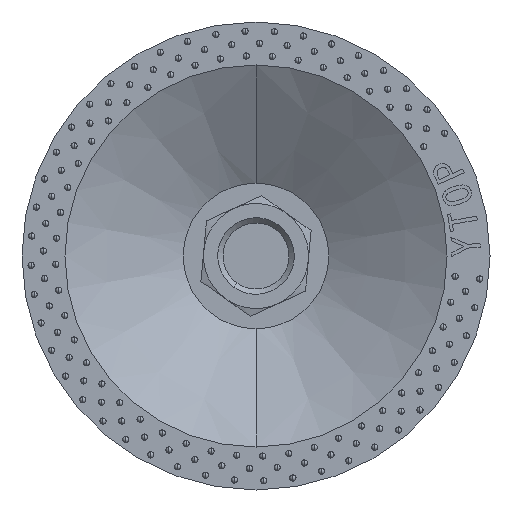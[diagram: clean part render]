
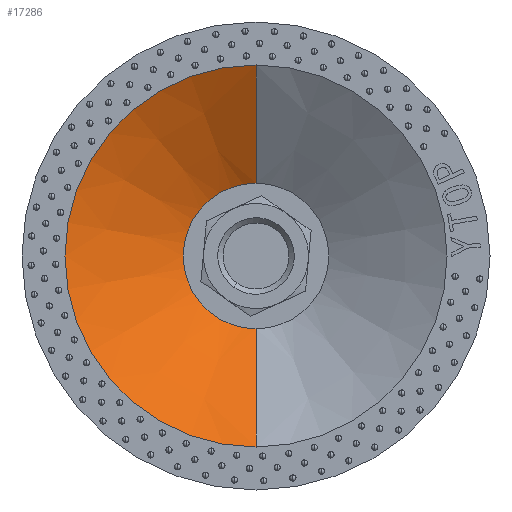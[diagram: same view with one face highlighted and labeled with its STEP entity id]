
A CAD part, front view. The second image highlights one B-rep face of the part: STEP entity #17286.
In plain terms, the highlighted conical face has half-angle 58.836 degrees and reference radius 40 mm.
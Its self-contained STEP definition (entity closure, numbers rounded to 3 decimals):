
#744 = LINE ( 'NONE', #23190, #23334 ) ;
#1186 = CARTESIAN_POINT ( 'NONE',  ( 0., 4.932, 40. ) ) ;
#1536 = EDGE_CURVE ( 'NONE', #9830, #20756, #14470, .T. ) ;
#1541 = VECTOR ( 'NONE', #24083, 1000. ) ;
#1772 = CARTESIAN_POINT ( 'NONE',  ( 0., 19.9, 15.25 ) ) ;
#2586 = ORIENTED_EDGE ( 'NONE', *, *, #7954, .F. ) ;
#3292 = EDGE_CURVE ( 'NONE', #14561, #12179, #744, .T. ) ;
#3742 = CARTESIAN_POINT ( 'NONE',  ( 0., 4.932, 40. ) ) ;
#4630 = CARTESIAN_POINT ( 'NONE',  ( 0., 4.932, 0. ) ) ;
#6711 = CARTESIAN_POINT ( 'NONE',  ( 0., 4.932, -40. ) ) ;
#7410 = ORIENTED_EDGE ( 'NONE', *, *, #11484, .T. ) ;
#7951 = CONICAL_SURFACE ( 'NONE', #23298, 40., 1.027 ) ;
#7954 = EDGE_CURVE ( 'NONE', #12179, #20756, #8405, .T. ) ;
#8405 = CIRCLE ( 'NONE', #22111, 40. ) ;
#8909 = DIRECTION ( 'NONE',  ( 0., 1., 0. ) ) ;
#8991 = DIRECTION ( 'NONE',  ( 0., 0., 1. ) ) ;
#9830 = VERTEX_POINT ( 'NONE', #1772 ) ;
#9948 = DIRECTION ( 'NONE',  ( 0., 1., 0. ) ) ;
#11063 = AXIS2_PLACEMENT_3D ( 'NONE', #19528, #9948, #19286 ) ;
#11484 = EDGE_CURVE ( 'NONE', #14561, #9830, #11612, .T. ) ;
#11578 = FACE_OUTER_BOUND ( 'NONE', #13687, .T. ) ;
#11612 = CIRCLE ( 'NONE', #11063, 15.25 ) ;
#12179 = VERTEX_POINT ( 'NONE', #6711 ) ;
#13687 = EDGE_LOOP ( 'NONE', ( #7410, #20177, #2586, #17058 ) ) ;
#14395 = DIRECTION ( 'NONE',  ( 0., -1., 0. ) ) ;
#14470 = LINE ( 'NONE', #1186, #1541 ) ;
#14561 = VERTEX_POINT ( 'NONE', #14808 ) ;
#14808 = CARTESIAN_POINT ( 'NONE',  ( 0., 19.9, -15.25 ) ) ;
#16875 = CARTESIAN_POINT ( 'NONE',  ( 0., 4.932, 0. ) ) ;
#17058 = ORIENTED_EDGE ( 'NONE', *, *, #3292, .F. ) ;
#17286 = ADVANCED_FACE ( 'NONE', ( #11578 ), #7951, .F. ) ;
#19286 = DIRECTION ( 'NONE',  ( 0., 0., 1. ) ) ;
#19298 = DIRECTION ( 'NONE',  ( 0., -0.517, -0.856 ) ) ;
#19528 = CARTESIAN_POINT ( 'NONE',  ( 0., 19.9, 0. ) ) ;
#20177 = ORIENTED_EDGE ( 'NONE', *, *, #1536, .T. ) ;
#20625 = DIRECTION ( 'NONE',  ( 0., 0., -1. ) ) ;
#20756 = VERTEX_POINT ( 'NONE', #3742 ) ;
#22111 = AXIS2_PLACEMENT_3D ( 'NONE', #16875, #8909, #8991 ) ;
#23190 = CARTESIAN_POINT ( 'NONE',  ( 0., 4.932, -40. ) ) ;
#23298 = AXIS2_PLACEMENT_3D ( 'NONE', #4630, #14395, #20625 ) ;
#23334 = VECTOR ( 'NONE', #19298, 1000. ) ;
#24083 = DIRECTION ( 'NONE',  ( 0., -0.517, 0.856 ) ) ;
